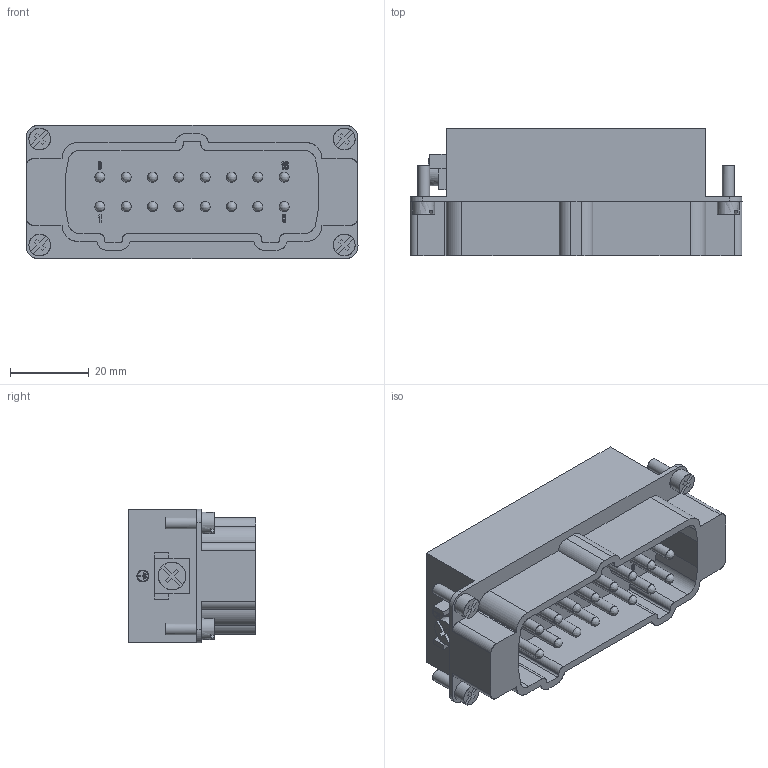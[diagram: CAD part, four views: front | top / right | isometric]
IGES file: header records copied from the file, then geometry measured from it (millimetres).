
Start section: VISI Layer Mapping Iges    VISI  0      LAYER0  1      WARNINGS
Global section: file name: G:\Produktkommunikation\Support\CD-Online-Katalog\3D Daten Produkte\15052012\E2702_16B.igs; native system: VISI 19.0; preprocessor: 2.0; author: nus; organization: Unknown; date: 20120515.150110; units: millimetre
Bounding box: 84.5 x 32.4 x 34 mm (x, y, z)
Surface area: 19964.4 mm2 (no closed solid volume)
Topology: 0 solids, 0 shells, 403 faces, 3458 edges, 3377 vertices
Faces by surface type: bspline 403
